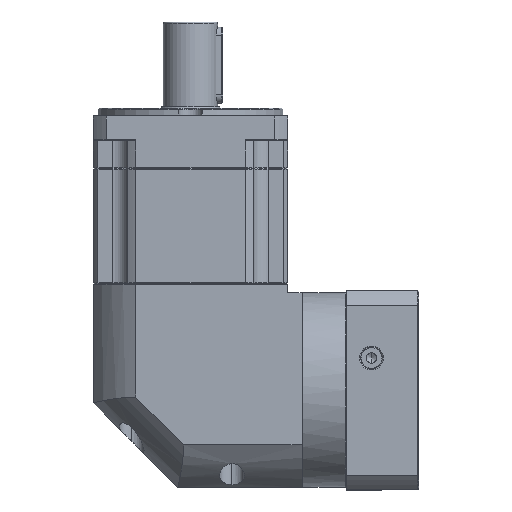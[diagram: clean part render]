
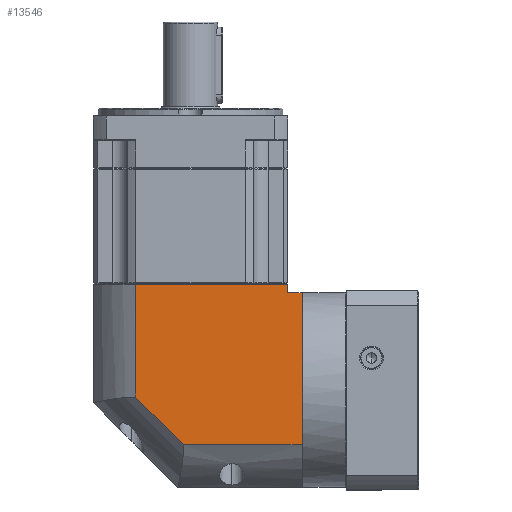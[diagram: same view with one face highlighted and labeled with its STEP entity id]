
A CAD part, left-side view. The second image highlights one B-rep face of the part: STEP entity #13546.
In plain terms, the highlighted planar face has unit normal (-1, 0, 0).
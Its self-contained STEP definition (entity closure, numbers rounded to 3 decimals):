
#2087 = VECTOR ( 'NONE', #120590, 1000. ) ;
#5131 = VECTOR ( 'NONE', #146555, 1000. ) ;
#7131 = EDGE_CURVE ( 'NONE', #49644, #125800, #99062, .T. ) ;
#7504 = ORIENTED_EDGE ( 'NONE', *, *, #118247, .F. ) ;
#9202 = VERTEX_POINT ( 'NONE', #126275 ) ;
#10415 = VERTEX_POINT ( 'NONE', #120375 ) ;
#13546 = ADVANCED_FACE ( 'NONE', ( #94263 ), #42542, .F. ) ;
#16840 = DIRECTION ( 'NONE',  ( 0., 0.707, 0.707 ) ) ;
#20583 = LINE ( 'NONE', #73105, #159287 ) ;
#22717 = VERTEX_POINT ( 'NONE', #147166 ) ;
#30310 = EDGE_CURVE ( 'NONE', #9202, #22717, #20583, .T. ) ;
#32456 = EDGE_CURVE ( 'NONE', #22717, #10415, #108210, .T. ) ;
#35085 = DIRECTION ( 'NONE',  ( 0., 0., 1. ) ) ;
#37372 = VECTOR ( 'NONE', #144427, 1000. ) ;
#40567 = VECTOR ( 'NONE', #35085, 1000. ) ;
#41275 = CARTESIAN_POINT ( 'NONE',  ( -244.861, -92.457, 101.558 ) ) ;
#41297 = CARTESIAN_POINT ( 'NONE',  ( -244.861, -2.557, 101.558 ) ) ;
#42016 = LINE ( 'NONE', #148778, #2087 ) ;
#42542 = PLANE ( 'NONE',  #137611 ) ;
#49644 = VERTEX_POINT ( 'NONE', #41297 ) ;
#52533 = CARTESIAN_POINT ( 'NONE',  ( -244.861, 22.543, 6.658 ) ) ;
#53833 = CARTESIAN_POINT ( 'NONE',  ( -244.861, -2.557, 34.996 ) ) ;
#56146 = DIRECTION ( 'NONE',  ( 1., 0., 0. ) ) ;
#70136 = VERTEX_POINT ( 'NONE', #53833 ) ;
#71537 = ORIENTED_EDGE ( 'NONE', *, *, #30310, .F. ) ;
#73105 = CARTESIAN_POINT ( 'NONE',  ( -244.861, -100.857, 108.058 ) ) ;
#75074 = LINE ( 'NONE', #109756, #106645 ) ;
#76329 = LINE ( 'NONE', #141567, #40567 ) ;
#81244 = ORIENTED_EDGE ( 'NONE', *, *, #7131, .F. ) ;
#81690 = EDGE_CURVE ( 'NONE', #9202, #100614, #42016, .T. ) ;
#89937 = EDGE_LOOP ( 'NONE', ( #7504, #132533, #153123, #71537, #99933, #144350, #81244 ) ) ;
#94263 = FACE_OUTER_BOUND ( 'NONE', #89937, .T. ) ;
#94807 = VECTOR ( 'NONE', #136872, 1000. ) ;
#99062 = LINE ( 'NONE', #123396, #94807 ) ;
#99933 = ORIENTED_EDGE ( 'NONE', *, *, #81690, .T. ) ;
#100227 = DIRECTION ( 'NONE',  ( 0., 0., -1. ) ) ;
#100614 = VERTEX_POINT ( 'NONE', #147836 ) ;
#106645 = VECTOR ( 'NONE', #16840, 1000. ) ;
#108210 = LINE ( 'NONE', #52533, #5131 ) ;
#109756 = CARTESIAN_POINT ( 'NONE',  ( -244.861, -30.896, 6.658 ) ) ;
#118247 = EDGE_CURVE ( 'NONE', #70136, #49644, #76329, .T. ) ;
#120375 = CARTESIAN_POINT ( 'NONE',  ( -244.861, -30.896, 6.658 ) ) ;
#120590 = DIRECTION ( 'NONE',  ( 0., 1., 0. ) ) ;
#123396 = CARTESIAN_POINT ( 'NONE',  ( -244.861, 22.543, 101.558 ) ) ;
#125800 = VERTEX_POINT ( 'NONE', #41275 ) ;
#126275 = CARTESIAN_POINT ( 'NONE',  ( -244.861, -100.857, 96.558 ) ) ;
#130909 = CARTESIAN_POINT ( 'NONE',  ( -244.861, -92.457, -18.442 ) ) ;
#131367 = EDGE_CURVE ( 'NONE', #10415, #70136, #75074, .T. ) ;
#132533 = ORIENTED_EDGE ( 'NONE', *, *, #131367, .F. ) ;
#136615 = CARTESIAN_POINT ( 'NONE',  ( -244.861, 22.543, 108.058 ) ) ;
#136872 = DIRECTION ( 'NONE',  ( 0., -1., 0. ) ) ;
#137611 = AXIS2_PLACEMENT_3D ( 'NONE', #136615, #56146, #150078 ) ;
#139962 = EDGE_CURVE ( 'NONE', #100614, #125800, #144675, .T. ) ;
#141567 = CARTESIAN_POINT ( 'NONE',  ( -244.861, -2.557, 108.058 ) ) ;
#144350 = ORIENTED_EDGE ( 'NONE', *, *, #139962, .T. ) ;
#144427 = DIRECTION ( 'NONE',  ( 0., 0., 1. ) ) ;
#144675 = LINE ( 'NONE', #130909, #37372 ) ;
#146555 = DIRECTION ( 'NONE',  ( 0., 1., 0. ) ) ;
#147166 = CARTESIAN_POINT ( 'NONE',  ( -244.861, -100.857, 6.658 ) ) ;
#147836 = CARTESIAN_POINT ( 'NONE',  ( -244.861, -92.457, 96.558 ) ) ;
#148778 = CARTESIAN_POINT ( 'NONE',  ( -244.861, -92.457, 96.558 ) ) ;
#150078 = DIRECTION ( 'NONE',  ( 0., 1., 0. ) ) ;
#153123 = ORIENTED_EDGE ( 'NONE', *, *, #32456, .F. ) ;
#159287 = VECTOR ( 'NONE', #100227, 1000. ) ;
